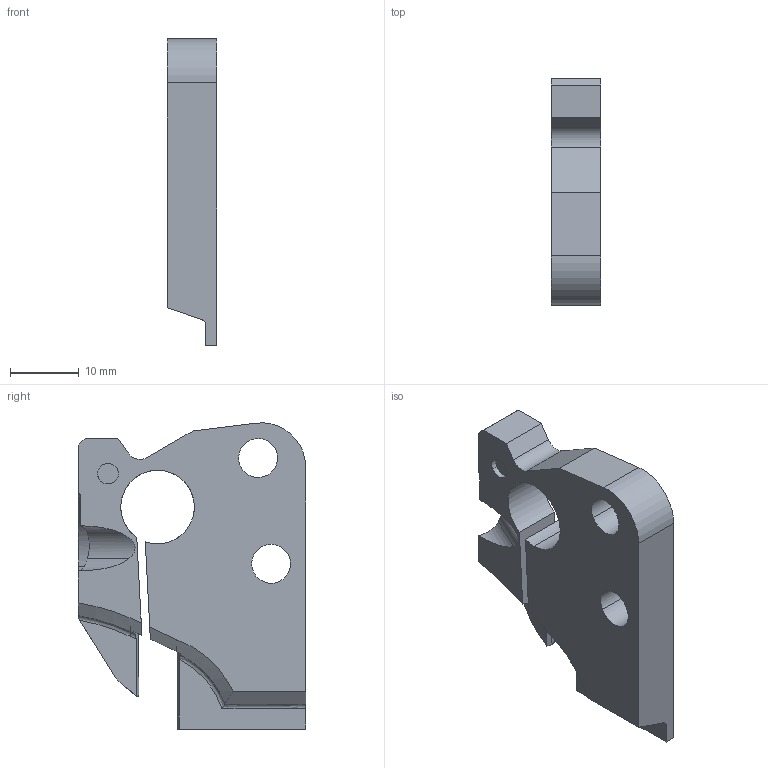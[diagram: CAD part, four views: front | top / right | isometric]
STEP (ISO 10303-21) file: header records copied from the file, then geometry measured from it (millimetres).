
FILE_DESCRIPTION(('CATIA V5 STEP','CAx-IF Rec.Pracs.--- Model Styling and Organization---1.2---2011-12-15'),'2;1');
FILE_NAME('N:\data\isr\design\special1\users\ANNA_K\Files Requests\ISCAR GMBH\2393794\DGPAD 2L-D22-JHP-D.stp','2015-12-15T09:13:34+00:00',('none'),('none'),'CATIA Version 5 Release 21 SP 5 (IN-10)','CATIA V5 STEP AP214','none');
FILE_SCHEMA(('AUTOMOTIVE_DESIGN { 1 0 10303 214 1 1 1 1 }'));
Length unit declared in the file: millimetre
Products named in the file (1): DGPAD 2L-D22-JHP
Bounding box: 7.2 x 33 x 44.49 mm (x, y, z)
Volume: 6622.2 mm3; surface area: 3836 mm2
Topology: 1 solids, 1 shells, 63 faces, 180 edges, 119 vertices
Faces by surface type: plane 31, cylinder 19, revolution 4, torus 3, bspline 2, extrusion 2, cone 2
Entity records: 2650 total; most frequent: CARTESIAN_POINT 1094, ORIENTED_EDGE 356, DIRECTION 241, EDGE_CURVE 178, VERTEX_POINT 119, VECTOR 102, LINE 100, AXIS2_PLACEMENT_3D 85
